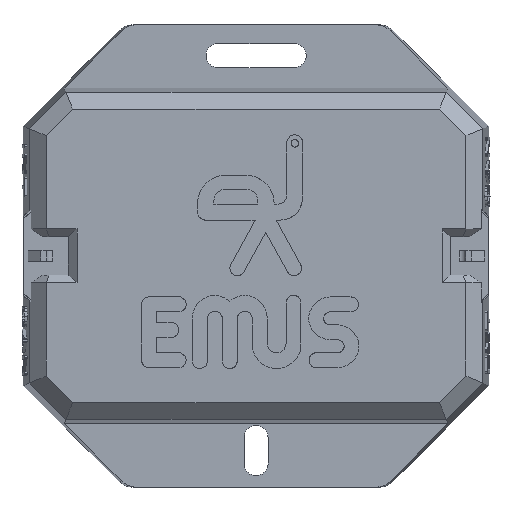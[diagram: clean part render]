
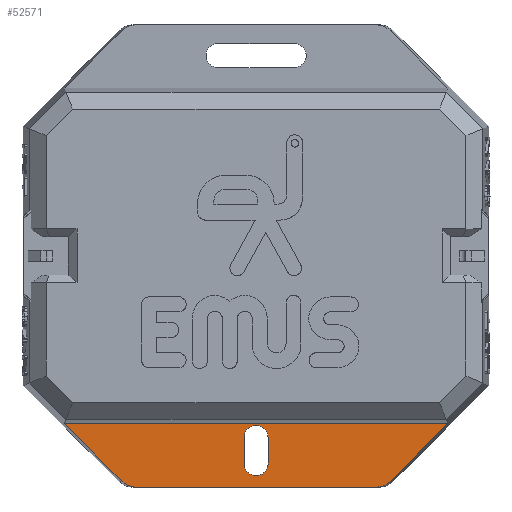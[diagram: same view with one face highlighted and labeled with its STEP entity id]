
A CAD part, top view. The second image highlights one B-rep face of the part: STEP entity #52571.
In plain terms, the highlighted planar face has unit normal (0, 0, 1).
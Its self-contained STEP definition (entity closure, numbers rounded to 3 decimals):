
#94=ELLIPSE('',#56533,2.519,2.5);
#95=ELLIPSE('',#56536,2.519,2.5);
#1847=FACE_BOUND('',#9658,.T.);
#3117=CIRCLE('',#56537,1.5);
#3118=CIRCLE('',#56538,1.5);
#3119=CIRCLE('',#56539,1.5);
#3120=CIRCLE('',#56540,1.5);
#6641=FACE_OUTER_BOUND('',#9657,.T.);
#9657=EDGE_LOOP('',(#46003,#46004,#46005,#46006,#46007,#46008));
#9658=EDGE_LOOP('',(#46009,#46010,#46011,#46012,#46013,#46014,#46015,#46016));
#14833=LINE('',#101993,#20359);
#14836=LINE('',#101999,#20362);
#14837=LINE('',#102001,#20363);
#14838=LINE('',#102003,#20364);
#14839=LINE('',#102007,#20365);
#14840=LINE('',#102011,#20366);
#14841=LINE('',#102015,#20367);
#14842=LINE('',#102019,#20368);
#20359=VECTOR('',#68227,10.);
#20362=VECTOR('',#68232,10.);
#20363=VECTOR('',#68233,10.);
#20364=VECTOR('',#68234,10.);
#20365=VECTOR('',#68237,10.);
#20366=VECTOR('',#68240,10.);
#20367=VECTOR('',#68243,10.);
#20368=VECTOR('',#68246,10.);
#25195=VERTEX_POINT('',#101986);
#25196=VERTEX_POINT('',#101988);
#25197=VERTEX_POINT('',#101992);
#25199=VERTEX_POINT('',#101998);
#25200=VERTEX_POINT('',#102000);
#25201=VERTEX_POINT('',#102002);
#25202=VERTEX_POINT('',#102005);
#25203=VERTEX_POINT('',#102006);
#25204=VERTEX_POINT('',#102008);
#25205=VERTEX_POINT('',#102010);
#25206=VERTEX_POINT('',#102012);
#25207=VERTEX_POINT('',#102014);
#25208=VERTEX_POINT('',#102016);
#25209=VERTEX_POINT('',#102018);
#32277=EDGE_CURVE('',#25195,#25196,#94,.T.);
#32279=EDGE_CURVE('',#25197,#25196,#14833,.T.);
#32282=EDGE_CURVE('',#25199,#25195,#14836,.T.);
#32283=EDGE_CURVE('',#25200,#25199,#14837,.T.);
#32284=EDGE_CURVE('',#25201,#25200,#14838,.T.);
#32285=EDGE_CURVE('',#25197,#25201,#95,.T.);
#32286=EDGE_CURVE('',#25202,#25203,#14839,.T.);
#32287=EDGE_CURVE('',#25204,#25203,#3117,.T.);
#32288=EDGE_CURVE('',#25204,#25205,#14840,.T.);
#32289=EDGE_CURVE('',#25206,#25205,#3118,.T.);
#32290=EDGE_CURVE('',#25206,#25207,#14841,.T.);
#32291=EDGE_CURVE('',#25208,#25207,#3119,.T.);
#32292=EDGE_CURVE('',#25208,#25209,#14842,.T.);
#32293=EDGE_CURVE('',#25202,#25209,#3120,.T.);
#46003=ORIENTED_EDGE('',*,*,#32277,.F.);
#46004=ORIENTED_EDGE('',*,*,#32282,.F.);
#46005=ORIENTED_EDGE('',*,*,#32283,.F.);
#46006=ORIENTED_EDGE('',*,*,#32284,.F.);
#46007=ORIENTED_EDGE('',*,*,#32285,.F.);
#46008=ORIENTED_EDGE('',*,*,#32279,.T.);
#46009=ORIENTED_EDGE('',*,*,#32286,.T.);
#46010=ORIENTED_EDGE('',*,*,#32287,.F.);
#46011=ORIENTED_EDGE('',*,*,#32288,.T.);
#46012=ORIENTED_EDGE('',*,*,#32289,.F.);
#46013=ORIENTED_EDGE('',*,*,#32290,.T.);
#46014=ORIENTED_EDGE('',*,*,#32291,.F.);
#46015=ORIENTED_EDGE('',*,*,#32292,.T.);
#46016=ORIENTED_EDGE('',*,*,#32293,.F.);
#49782=PLANE('',#56535);
#52571=ADVANCED_FACE('',(#6641,#1847),#49782,.T.);
#56533=AXIS2_PLACEMENT_3D('',#101989,#68222,#68223);
#56535=AXIS2_PLACEMENT_3D('',#101997,#68230,#68231);
#56536=AXIS2_PLACEMENT_3D('',#102004,#68235,#68236);
#56537=AXIS2_PLACEMENT_3D('',#102009,#68238,#68239);
#56538=AXIS2_PLACEMENT_3D('',#102013,#68241,#68242);
#56539=AXIS2_PLACEMENT_3D('',#102017,#68244,#68245);
#56540=AXIS2_PLACEMENT_3D('',#102020,#68247,#68248);
#68222=DIRECTION('center_axis',(0.,0.,-1.));
#68223=DIRECTION('ref_axis',(1.,0.,0.));
#68227=DIRECTION('',(1.,0.,0.));
#68230=DIRECTION('center_axis',(0.,0.,1.));
#68231=DIRECTION('ref_axis',(1.,0.,0.));
#68232=DIRECTION('',(-0.707,-0.707,0.));
#68233=DIRECTION('',(1.,0.,0.));
#68234=DIRECTION('',(-0.707,0.707,0.));
#68235=DIRECTION('center_axis',(0.,0.,-1.));
#68236=DIRECTION('ref_axis',(-1.,0.,0.));
#68237=DIRECTION('',(1.,0.,0.));
#68238=DIRECTION('center_axis',(0.,0.,1.));
#68239=DIRECTION('ref_axis',(0.707,0.707,0.));
#68240=DIRECTION('',(0.,-1.,0.));
#68241=DIRECTION('center_axis',(0.,0.,1.));
#68242=DIRECTION('ref_axis',(0.707,-0.707,0.));
#68243=DIRECTION('',(-1.,0.,0.));
#68244=DIRECTION('center_axis',(0.,0.,1.));
#68245=DIRECTION('ref_axis',(-0.707,-0.707,0.));
#68246=DIRECTION('',(0.,1.,0.));
#68247=DIRECTION('center_axis',(0.,0.,1.));
#68248=DIRECTION('ref_axis',(-0.707,0.707,0.));
#101986=CARTESIAN_POINT('',(45.605,-9.296,1.389));
#101988=CARTESIAN_POINT('',(43.817,-10.035,1.389));
#101989=CARTESIAN_POINT('Origin',(43.817,-7.535,1.389));
#101992=CARTESIAN_POINT('',(12.572,-10.035,1.389));
#101993=CARTESIAN_POINT('',(45.237,-10.035,1.389));
#101997=CARTESIAN_POINT('Origin',(28.194,20.,1.389));
#101998=CARTESIAN_POINT('',(53.128,-1.773,1.389));
#101999=CARTESIAN_POINT('',(51.55,-3.351,1.389));
#102000=CARTESIAN_POINT('',(3.26,-1.773,1.389));
#102001=CARTESIAN_POINT('',(40.708,-1.773,1.389));
#102002=CARTESIAN_POINT('',(10.784,-9.296,1.389));
#102003=CARTESIAN_POINT('',(4.844,-3.356,1.389));
#102004=CARTESIAN_POINT('Origin',(12.572,-7.535,1.389));
#102005=CARTESIAN_POINT('',(28.144,-2.035,1.389));
#102006=CARTESIAN_POINT('',(28.244,-2.035,1.389));
#102007=CARTESIAN_POINT('',(26.644,-2.035,1.389));
#102008=CARTESIAN_POINT('',(29.744,-3.535,1.389));
#102009=CARTESIAN_POINT('Origin',(28.244,-3.535,1.389));
#102010=CARTESIAN_POINT('',(29.744,-7.035,1.389));
#102011=CARTESIAN_POINT('',(29.744,-2.035,1.389));
#102012=CARTESIAN_POINT('',(28.244,-8.535,1.389));
#102013=CARTESIAN_POINT('Origin',(28.244,-7.035,1.389));
#102014=CARTESIAN_POINT('',(28.144,-8.535,1.389));
#102015=CARTESIAN_POINT('',(29.744,-8.535,1.389));
#102016=CARTESIAN_POINT('',(26.644,-7.035,1.389));
#102017=CARTESIAN_POINT('Origin',(28.144,-7.035,1.389));
#102018=CARTESIAN_POINT('',(26.644,-3.535,1.389));
#102019=CARTESIAN_POINT('',(26.644,-8.535,1.389));
#102020=CARTESIAN_POINT('Origin',(28.144,-3.535,1.389));
